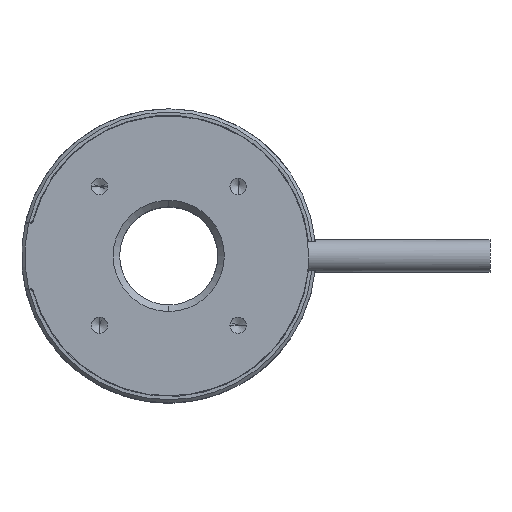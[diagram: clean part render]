
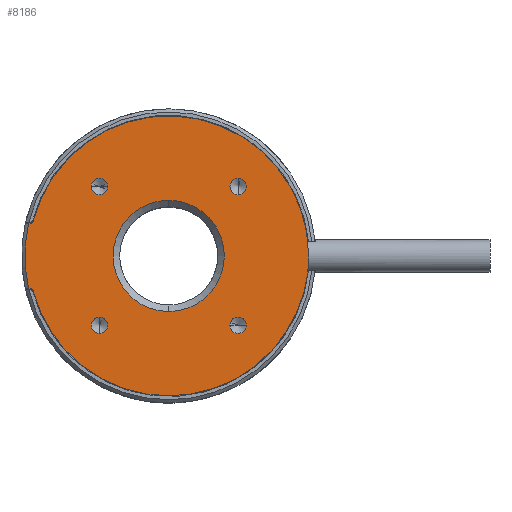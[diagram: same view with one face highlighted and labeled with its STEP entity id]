
A CAD part, top view. The second image highlights one B-rep face of the part: STEP entity #8186.
In plain terms, the highlighted planar face has unit normal (0, 0, 1).
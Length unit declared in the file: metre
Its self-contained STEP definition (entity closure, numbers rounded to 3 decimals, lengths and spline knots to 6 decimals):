
#1469=CARTESIAN_POINT('',(0.,0.,0.002));
#1470=DIRECTION('',(0.,0.,-1.));
#1471=DIRECTION('',(0.,1.,0.));
#1472=AXIS2_PLACEMENT_3D('',#1469,#1470,#1471);
#1474=CARTESIAN_POINT('',(0.,0.,0.002));
#1475=DIRECTION('',(0.,0.,-1.));
#1476=DIRECTION('',(0.,-1.,0.));
#1477=AXIS2_PLACEMENT_3D('',#1474,#1475,#1476);
#1479=CARTESIAN_POINT('',(0.010607,0.010607,0.002));
#1480=DIRECTION('',(0.,0.,-1.));
#1481=DIRECTION('',(0.,1.,0.));
#1482=AXIS2_PLACEMENT_3D('',#1479,#1480,#1481);
#1484=CARTESIAN_POINT('',(0.010607,0.010607,0.002));
#1485=DIRECTION('',(0.,0.,-1.));
#1486=DIRECTION('',(0.,-1.,0.));
#1487=AXIS2_PLACEMENT_3D('',#1484,#1485,#1486);
#1489=CARTESIAN_POINT('',(-0.010607,0.010607,0.002));
#1490=DIRECTION('',(0.,0.,-1.));
#1491=DIRECTION('',(-1.,0.,0.));
#1492=AXIS2_PLACEMENT_3D('',#1489,#1490,#1491);
#1494=CARTESIAN_POINT('',(-0.010607,0.010607,0.002));
#1495=DIRECTION('',(0.,0.,-1.));
#1496=DIRECTION('',(1.,0.,0.));
#1497=AXIS2_PLACEMENT_3D('',#1494,#1495,#1496);
#1499=CARTESIAN_POINT('',(-0.010607,-0.010607,0.002));
#1500=DIRECTION('',(0.,0.,-1.));
#1501=DIRECTION('',(0.,-1.,0.));
#1502=AXIS2_PLACEMENT_3D('',#1499,#1500,#1501);
#1504=CARTESIAN_POINT('',(-0.010607,-0.010607,0.002));
#1505=DIRECTION('',(0.,0.,-1.));
#1506=DIRECTION('',(0.,1.,0.));
#1507=AXIS2_PLACEMENT_3D('',#1504,#1505,#1506);
#1509=CARTESIAN_POINT('',(0.010607,-0.010607,0.002));
#1510=DIRECTION('',(0.,0.,-1.));
#1511=DIRECTION('',(1.,0.,0.));
#1512=AXIS2_PLACEMENT_3D('',#1509,#1510,#1511);
#1514=CARTESIAN_POINT('',(0.010607,-0.010607,0.002));
#1515=DIRECTION('',(0.,0.,-1.));
#1516=DIRECTION('',(-1.,0.,0.));
#1517=AXIS2_PLACEMENT_3D('',#1514,#1515,#1516);
#1519=CARTESIAN_POINT('',(0.,0.,0.002));
#1520=DIRECTION('',(0.,0.,1.));
#1521=DIRECTION('',(-0.974,0.227,0.));
#1522=AXIS2_PLACEMENT_3D('',#1519,#1520,#1521);
#1524=CARTESIAN_POINT('',(-0.021198,0.0055,0.002));
#1525=DIRECTION('',(0.,0.,-1.));
#1526=DIRECTION('',(0.968,-0.251,0.));
#1527=AXIS2_PLACEMENT_3D('',#1524,#1525,#1526);
#1529=CARTESIAN_POINT('',(0.,0.,0.002));
#1530=DIRECTION('',(0.,0.,1.));
#1531=DIRECTION('',(1.,0.,0.));
#1532=AXIS2_PLACEMENT_3D('',#1529,#1530,#1531);
#1534=CARTESIAN_POINT('',(0.,0.,0.002));
#1535=DIRECTION('',(0.,0.,1.));
#1536=DIRECTION('',(0.968,-0.251,0.));
#1537=AXIS2_PLACEMENT_3D('',#1534,#1535,#1536);
#1539=CARTESIAN_POINT('',(0.,0.,0.002));
#1540=DIRECTION('',(0.,0.,1.));
#1541=DIRECTION('',(-0.968,-0.251,0.));
#1542=AXIS2_PLACEMENT_3D('',#1539,#1540,#1541);
#1544=CARTESIAN_POINT('',(-0.021198,-0.0055,0.002));
#1545=DIRECTION('',(0.,0.,-1.));
#1546=DIRECTION('',(0.,1.,0.));
#1547=AXIS2_PLACEMENT_3D('',#1544,#1545,#1546);
#3656=DIRECTION('',(1.,0.,0.));
#3657=VECTOR('',#3656,0.000226);
#3658=CARTESIAN_POINT('',(-0.021424,0.005,0.002));
#3659=LINE('',#3658,#3657);
#4665=DIRECTION('',(-1.,0.,0.));
#4666=VECTOR('',#4665,0.000226);
#4667=CARTESIAN_POINT('',(-0.021198,-0.005,0.002));
#4668=LINE('',#4667,#4666);
#4938=CARTESIAN_POINT('',(-0.021424,0.005,0.002));
#4939=CARTESIAN_POINT('',(-0.021198,0.005,0.002));
#4940=VERTEX_POINT('',#4938);
#4941=VERTEX_POINT('',#4939);
#4942=CARTESIAN_POINT('',(-0.020714,0.005374,0.002));
#4943=VERTEX_POINT('',#4942);
#4944=CARTESIAN_POINT('',(-0.020714,-0.005374,0.002));
#4945=CARTESIAN_POINT('',(0.020714,-0.005374,0.002));
#4946=VERTEX_POINT('',#4944);
#4947=VERTEX_POINT('',#4945);
#4948=CARTESIAN_POINT('',(0.0214,0.,0.002));
#4949=VERTEX_POINT('',#4948);
#4950=CARTESIAN_POINT('',(-0.021198,-0.005,0.002));
#4951=VERTEX_POINT('',#4950);
#4952=CARTESIAN_POINT('',(-0.021424,-0.005,0.002));
#4953=VERTEX_POINT('',#4952);
#4954=CARTESIAN_POINT('',(0.009357,-0.010607,0.002));
#4955=CARTESIAN_POINT('',(0.011857,-0.010607,0.002));
#4956=VERTEX_POINT('',#4954);
#4957=VERTEX_POINT('',#4955);
#4958=CARTESIAN_POINT('',(-0.010607,-0.009357,0.002));
#4959=CARTESIAN_POINT('',(-0.010607,-0.011857,0.002));
#4960=VERTEX_POINT('',#4958);
#4961=VERTEX_POINT('',#4959);
#4962=CARTESIAN_POINT('',(-0.009357,0.010607,0.002));
#4963=CARTESIAN_POINT('',(-0.011857,0.010607,0.002));
#4964=VERTEX_POINT('',#4962);
#4965=VERTEX_POINT('',#4963);
#4966=CARTESIAN_POINT('',(0.010607,0.009357,0.002));
#4967=CARTESIAN_POINT('',(0.010607,0.011857,0.002));
#4968=VERTEX_POINT('',#4966);
#4969=VERTEX_POINT('',#4967);
#4970=CARTESIAN_POINT('',(0.,-0.0085,0.002));
#4971=CARTESIAN_POINT('',(0.,0.0085,0.002));
#4972=VERTEX_POINT('',#4970);
#4973=VERTEX_POINT('',#4971);
#8135=CARTESIAN_POINT('',(0.,0.,0.002));
#8136=DIRECTION('',(0.,0.,-1.));
#8137=DIRECTION('',(0.,1.,0.));
#8138=AXIS2_PLACEMENT_3D('',#8135,#8136,#8137);
#8139=PLANE('',#8138);
#8141=ORIENTED_EDGE('',*,*,#8140,.F.);
#8143=ORIENTED_EDGE('',*,*,#8142,.T.);
#8145=ORIENTED_EDGE('',*,*,#8144,.F.);
#8147=ORIENTED_EDGE('',*,*,#8146,.F.);
#8149=ORIENTED_EDGE('',*,*,#8148,.F.);
#8151=ORIENTED_EDGE('',*,*,#8150,.F.);
#8153=ORIENTED_EDGE('',*,*,#8152,.F.);
#8155=ORIENTED_EDGE('',*,*,#8154,.T.);
#8156=EDGE_LOOP('',(#8141,#8143,#8145,#8147,#8149,#8151,#8153,#8155));
#8157=FACE_OUTER_BOUND('',#8156,.F.);
#8159=ORIENTED_EDGE('',*,*,#8158,.F.);
#8161=ORIENTED_EDGE('',*,*,#8160,.F.);
#8162=EDGE_LOOP('',(#8159,#8161));
#8163=FACE_BOUND('',#8162,.F.);
#8165=ORIENTED_EDGE('',*,*,#8164,.F.);
#8167=ORIENTED_EDGE('',*,*,#8166,.F.);
#8168=EDGE_LOOP('',(#8165,#8167));
#8169=FACE_BOUND('',#8168,.F.);
#8171=ORIENTED_EDGE('',*,*,#8170,.F.);
#8173=ORIENTED_EDGE('',*,*,#8172,.F.);
#8174=EDGE_LOOP('',(#8171,#8173));
#8175=FACE_BOUND('',#8174,.F.);
#8177=ORIENTED_EDGE('',*,*,#8176,.F.);
#8179=ORIENTED_EDGE('',*,*,#8178,.F.);
#8180=EDGE_LOOP('',(#8177,#8179));
#8181=FACE_BOUND('',#8180,.F.);
#8182=ORIENTED_EDGE('',*,*,#8128,.F.);
#8183=ORIENTED_EDGE('',*,*,#8114,.F.);
#8184=EDGE_LOOP('',(#8182,#8183));
#8185=FACE_BOUND('',#8184,.F.);
#8186=ADVANCED_FACE('',(#8157,#8163,#8169,#8175,#8181,#8185),#8139,.F.);
#1473=CIRCLE('',#1472,0.0085);
#1478=CIRCLE('',#1477,0.0085);
#1483=CIRCLE('',#1482,0.00125);
#1488=CIRCLE('',#1487,0.00125);
#1493=CIRCLE('',#1492,0.00125);
#1498=CIRCLE('',#1497,0.00125);
#1503=CIRCLE('',#1502,0.00125);
#1508=CIRCLE('',#1507,0.00125);
#1513=CIRCLE('',#1512,0.00125);
#1518=CIRCLE('',#1517,0.00125);
#1523=CIRCLE('',#1522,0.022);
#1528=CIRCLE('',#1527,0.0005);
#1533=CIRCLE('',#1532,0.0214);
#1538=CIRCLE('',#1537,0.0214);
#1543=CIRCLE('',#1542,0.0214);
#1548=CIRCLE('',#1547,0.0005);
#8114=EDGE_CURVE('',#4972,#4973,#1478,.T.);
#8128=EDGE_CURVE('',#4973,#4972,#1473,.T.);
#8140=EDGE_CURVE('',#4940,#4953,#1523,.T.);
#8142=EDGE_CURVE('',#4940,#4941,#3659,.T.);
#8144=EDGE_CURVE('',#4943,#4941,#1528,.T.);
#8146=EDGE_CURVE('',#4949,#4943,#1533,.T.);
#8148=EDGE_CURVE('',#4947,#4949,#1538,.T.);
#8150=EDGE_CURVE('',#4946,#4947,#1543,.T.);
#8152=EDGE_CURVE('',#4951,#4946,#1548,.T.);
#8154=EDGE_CURVE('',#4951,#4953,#4668,.T.);
#8158=EDGE_CURVE('',#4969,#4968,#1483,.T.);
#8160=EDGE_CURVE('',#4968,#4969,#1488,.T.);
#8164=EDGE_CURVE('',#4965,#4964,#1493,.T.);
#8166=EDGE_CURVE('',#4964,#4965,#1498,.T.);
#8170=EDGE_CURVE('',#4961,#4960,#1503,.T.);
#8172=EDGE_CURVE('',#4960,#4961,#1508,.T.);
#8176=EDGE_CURVE('',#4957,#4956,#1513,.T.);
#8178=EDGE_CURVE('',#4956,#4957,#1518,.T.);
